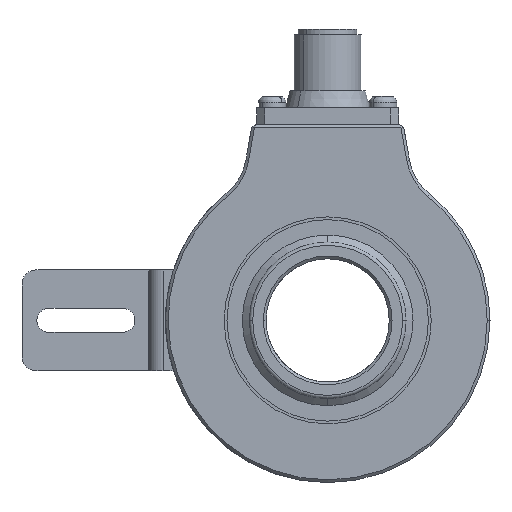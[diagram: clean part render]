
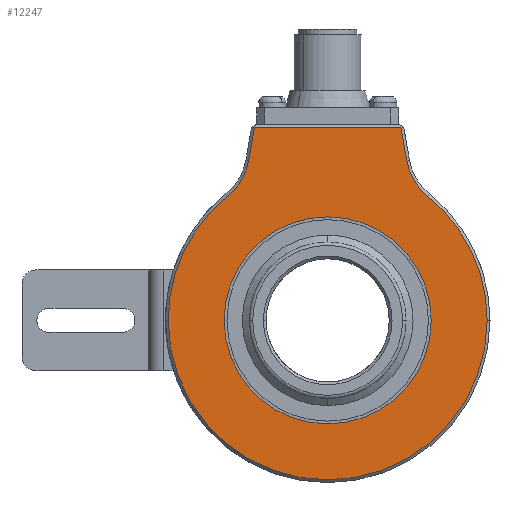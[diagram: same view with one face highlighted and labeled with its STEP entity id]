
A CAD part, left-side view. The second image highlights one B-rep face of the part: STEP entity #12247.
In plain terms, the highlighted planar face has unit normal (-1, 0, 0).
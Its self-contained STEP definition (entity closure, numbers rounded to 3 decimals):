
#175 = CARTESIAN_POINT ( 'NONE',  ( -27., -13.08, 34.5 ) ) ;
#377 = VERTEX_POINT ( 'NONE', #175 ) ;
#961 = ORIENTED_EDGE ( 'NONE', *, *, #9005, .T. ) ;
#1110 = ORIENTED_EDGE ( 'NONE', *, *, #18803, .T. ) ;
#1279 = CARTESIAN_POINT ( 'NONE',  ( -27., 19.46, -1.682 ) ) ;
#1303 = EDGE_CURVE ( 'NONE', #21460, #5579, #2360, .T. ) ;
#1951 = VERTEX_POINT ( 'NONE', #17420 ) ;
#2148 = EDGE_LOOP ( 'NONE', ( #18485, #1110, #16279, #12556, #8171, #961, #18307, #12397 ) ) ;
#2360 = CIRCLE ( 'NONE', #22666, 18.5 ) ;
#2404 = CIRCLE ( 'NONE', #14652, 18.5 ) ;
#2509 = CARTESIAN_POINT ( 'NONE',  ( -27., 18.5, 0. ) ) ;
#3015 = DIRECTION ( 'NONE',  ( 0., -1., 0. ) ) ;
#3070 = DIRECTION ( 'NONE',  ( -1., 0., 0. ) ) ;
#3101 = CIRCLE ( 'NONE', #22649, 28.5 ) ;
#3218 = EDGE_CURVE ( 'NONE', #12235, #21812, #3101, .T. ) ;
#3479 = DIRECTION ( 'NONE',  ( -1., 0., 0. ) ) ;
#3561 = AXIS2_PLACEMENT_3D ( 'NONE', #11181, #9496, #9377 ) ;
#3701 = VECTOR ( 'NONE', #22422, 1000. ) ;
#3852 = DIRECTION ( 'NONE',  ( 1., 0., 0. ) ) ;
#4064 = LINE ( 'NONE', #10123, #3701 ) ;
#4265 = EDGE_CURVE ( 'NONE', #5579, #21460, #2404, .T. ) ;
#4845 = EDGE_CURVE ( 'NONE', #1951, #12235, #17331, .T. ) ;
#5104 = CARTESIAN_POINT ( 'NONE',  ( -27., -14.131, 28.544 ) ) ;
#5111 = CARTESIAN_POINT ( 'NONE',  ( -27., 0., 0. ) ) ;
#5579 = VERTEX_POINT ( 'NONE', #22044 ) ;
#6664 = EDGE_CURVE ( 'NONE', #23240, #1951, #19867, .T. ) ;
#6709 = DIRECTION ( 'NONE',  ( -1., 0., 0. ) ) ;
#7053 = FACE_OUTER_BOUND ( 'NONE', #2148, .T. ) ;
#7655 = EDGE_CURVE ( 'NONE', #16106, #377, #4064, .T. ) ;
#8053 = LINE ( 'NONE', #15367, #22946 ) ;
#8171 = ORIENTED_EDGE ( 'NONE', *, *, #3218, .T. ) ;
#8695 = AXIS2_PLACEMENT_3D ( 'NONE', #19737, #19863, #8936 ) ;
#8707 = AXIS2_PLACEMENT_3D ( 'NONE', #20165, #3852, #18120 ) ;
#8936 = DIRECTION ( 'NONE',  ( 0., -1., 0. ) ) ;
#9005 = EDGE_CURVE ( 'NONE', #21812, #14859, #22520, .T. ) ;
#9094 = EDGE_CURVE ( 'NONE', #14859, #21325, #23655, .T. ) ;
#9377 = DIRECTION ( 'NONE',  ( 0., -1., 0. ) ) ;
#9496 = DIRECTION ( 'NONE',  ( 1., 0., 0. ) ) ;
#9500 = EDGE_CURVE ( 'NONE', #21325, #16106, #20994, .T. ) ;
#9509 = ORIENTED_EDGE ( 'NONE', *, *, #1303, .T. ) ;
#9669 = CARTESIAN_POINT ( 'NONE',  ( -27., 28.5, 0. ) ) ;
#10123 = CARTESIAN_POINT ( 'NONE',  ( -27., -17.711, 8.236 ) ) ;
#10481 = CARTESIAN_POINT ( 'NONE',  ( -27., 0., 0. ) ) ;
#10890 = CARTESIAN_POINT ( 'NONE',  ( -27., -17.883, 22.191 ) ) ;
#11181 = CARTESIAN_POINT ( 'NONE',  ( -27., 24.471, 30.367 ) ) ;
#12145 = AXIS2_PLACEMENT_3D ( 'NONE', #10481, #3070, #15778 ) ;
#12166 = DIRECTION ( 'NONE',  ( 0., 1., 0. ) ) ;
#12235 = VERTEX_POINT ( 'NONE', #14023 ) ;
#12247 = ADVANCED_FACE ( 'NONE', ( #7053, #15711 ), #12575, .T. ) ;
#12397 = ORIENTED_EDGE ( 'NONE', *, *, #9500, .T. ) ;
#12418 = DIRECTION ( 'NONE',  ( 1., 0., 0. ) ) ;
#12556 = ORIENTED_EDGE ( 'NONE', *, *, #4845, .T. ) ;
#12575 = PLANE ( 'NONE',  #20653 ) ;
#12801 = EDGE_LOOP ( 'NONE', ( #9509, #16649 ) ) ;
#13622 = CARTESIAN_POINT ( 'NONE',  ( -27., 0., 0. ) ) ;
#14023 = CARTESIAN_POINT ( 'NONE',  ( -27., 17.883, 22.191 ) ) ;
#14652 = AXIS2_PLACEMENT_3D ( 'NONE', #13622, #17234, #12166 ) ;
#14859 = VERTEX_POINT ( 'NONE', #15192 ) ;
#15192 = CARTESIAN_POINT ( 'NONE',  ( -27., -28.5, 0. ) ) ;
#15367 = CARTESIAN_POINT ( 'NONE',  ( -27., 29., 34.5 ) ) ;
#15711 = FACE_BOUND ( 'NONE', #12801, .T. ) ;
#15778 = DIRECTION ( 'NONE',  ( 0., -1., 0. ) ) ;
#16106 = VERTEX_POINT ( 'NONE', #5104 ) ;
#16279 = ORIENTED_EDGE ( 'NONE', *, *, #6664, .T. ) ;
#16649 = ORIENTED_EDGE ( 'NONE', *, *, #4265, .T. ) ;
#17097 = CARTESIAN_POINT ( 'NONE',  ( -27., 13.08, 34.5 ) ) ;
#17234 = DIRECTION ( 'NONE',  ( 1., 0., 0. ) ) ;
#17331 = CIRCLE ( 'NONE', #3561, 10.5 ) ;
#17420 = CARTESIAN_POINT ( 'NONE',  ( -27., 14.131, 28.544 ) ) ;
#17742 = DIRECTION ( 'NONE',  ( 0., -1., 0. ) ) ;
#18120 = DIRECTION ( 'NONE',  ( 0., -1., 0. ) ) ;
#18307 = ORIENTED_EDGE ( 'NONE', *, *, #9094, .T. ) ;
#18485 = ORIENTED_EDGE ( 'NONE', *, *, #7655, .T. ) ;
#18803 = EDGE_CURVE ( 'NONE', #377, #23240, #8053, .T. ) ;
#18987 = VECTOR ( 'NONE', #21305, 1000. ) ;
#19093 = DIRECTION ( 'NONE',  ( 0., 1., 0. ) ) ;
#19737 = CARTESIAN_POINT ( 'NONE',  ( -27., 0., 0. ) ) ;
#19755 = DIRECTION ( 'NONE',  ( 0., 1., 0. ) ) ;
#19863 = DIRECTION ( 'NONE',  ( -1., 0., 0. ) ) ;
#19867 = LINE ( 'NONE', #1279, #18987 ) ;
#19912 = CARTESIAN_POINT ( 'NONE',  ( -27., 29., 0. ) ) ;
#20165 = CARTESIAN_POINT ( 'NONE',  ( -27., -24.471, 30.367 ) ) ;
#20653 = AXIS2_PLACEMENT_3D ( 'NONE', #19912, #3479, #17742 ) ;
#20994 = CIRCLE ( 'NONE', #8707, 10.5 ) ;
#21305 = DIRECTION ( 'NONE',  ( 0., 0.174, -0.985 ) ) ;
#21325 = VERTEX_POINT ( 'NONE', #10890 ) ;
#21460 = VERTEX_POINT ( 'NONE', #2509 ) ;
#21812 = VERTEX_POINT ( 'NONE', #9669 ) ;
#22044 = CARTESIAN_POINT ( 'NONE',  ( -27., -18.5, 0. ) ) ;
#22228 = CARTESIAN_POINT ( 'NONE',  ( -27., 0., 0. ) ) ;
#22422 = DIRECTION ( 'NONE',  ( 0., 0.174, 0.985 ) ) ;
#22520 = CIRCLE ( 'NONE', #12145, 28.5 ) ;
#22649 = AXIS2_PLACEMENT_3D ( 'NONE', #22228, #6709, #3015 ) ;
#22666 = AXIS2_PLACEMENT_3D ( 'NONE', #5111, #12418, #19755 ) ;
#22946 = VECTOR ( 'NONE', #19093, 1000. ) ;
#23240 = VERTEX_POINT ( 'NONE', #17097 ) ;
#23655 = CIRCLE ( 'NONE', #8695, 28.5 ) ;
